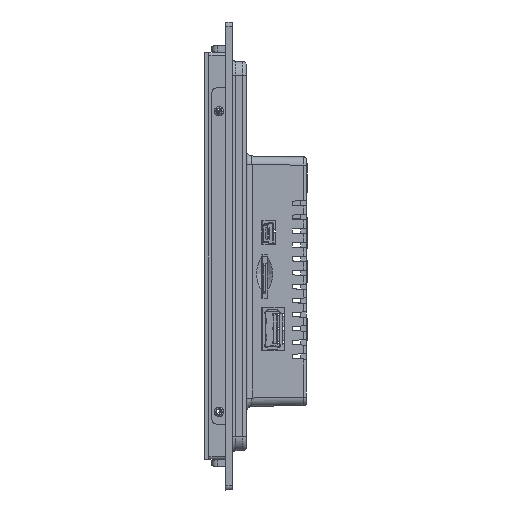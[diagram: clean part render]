
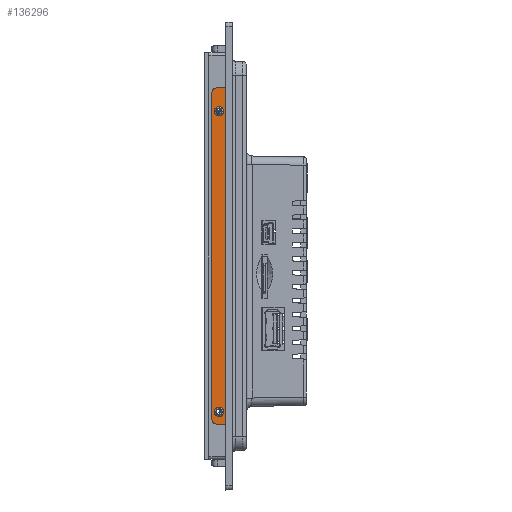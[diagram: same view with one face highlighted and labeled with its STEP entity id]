
A CAD part, left-side view. The second image highlights one B-rep face of the part: STEP entity #136296.
In plain terms, the highlighted planar face has unit normal (-1, 0.018, 0).
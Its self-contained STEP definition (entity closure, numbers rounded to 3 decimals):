
#2118 = EDGE_LOOP ( 'NONE', ( #119730 ) ) ;
#3052 = EDGE_CURVE ( 'NONE', #116427, #116427, #121926, .T. ) ;
#5255 = CARTESIAN_POINT ( 'NONE',  ( -156.58, 23.983, 49.9 ) ) ;
#6088 = VERTEX_POINT ( 'NONE', #155089 ) ;
#7814 =( BOUNDED_CURVE ( )  B_SPLINE_CURVE ( 3, ( #142962, #55112, #67760, #155593, #80410, #5255, #93040 ),
 .UNSPECIFIED., .T., .F. ) 
 B_SPLINE_CURVE_WITH_KNOTS ( ( 4, 3, 4 ),
 ( 0., 3.142, 6.283 ),
 .UNSPECIFIED. ) 
 CURVE ( )  GEOMETRIC_REPRESENTATION_ITEM ( )  RATIONAL_B_SPLINE_CURVE ( ( 1., 0.333, 0.333, 1., 0.333, 0.333, 1. ) ) 
 REPRESENTATION_ITEM ( '' )  );
#8055 = EDGE_CURVE ( 'NONE', #94596, #44844, #24182, .T. ) ;
#10171 = CARTESIAN_POINT ( 'NONE',  ( -156.645, 20.271, 60.505 ) ) ;
#10656 = ORIENTED_EDGE ( 'NONE', *, *, #68153, .F. ) ;
#13679 = EDGE_LOOP ( 'NONE', ( #61261, #54710, #10656, #108959, #89876, #93584 ) ) ;
#15189 = CARTESIAN_POINT ( 'NONE',  ( -156.553, 25.533, 58.447 ) ) ;
#18144 = CARTESIAN_POINT ( 'NONE',  ( -156.64, 20.533, 75.5 ) ) ;
#19941 = VECTOR ( 'NONE', #117671, 1000. ) ;
#22806 = DIRECTION ( 'NONE',  ( -0.017, -1., 0.017 ) ) ;
#24126 = CARTESIAN_POINT ( 'NONE',  ( -156.58, 23.983, -53.9 ) ) ;
#24182 = LINE ( 'NONE', #111219, #45761 ) ;
#27307 =( BOUNDED_CURVE ( )  B_SPLINE_CURVE ( 3, ( #119147, #68583, #131765, #56489 ),
 .UNSPECIFIED., .F., .F. ) 
 B_SPLINE_CURVE_WITH_KNOTS ( ( 4, 4 ),
 ( 0., 1.553 ),
 .UNSPECIFIED. ) 
 CURVE ( )  GEOMETRIC_REPRESENTATION_ITEM ( )  RATIONAL_B_SPLINE_CURVE ( ( 1., 0.809, 0.809, 1. ) ) 
 REPRESENTATION_ITEM ( '' )  );
#28673 = EDGE_CURVE ( 'NONE', #94596, #6088, #86586, .T. ) ;
#29701 = PLANE ( 'NONE',  #156775 ) ;
#30760 = DIRECTION ( 'NONE',  ( -0.017, -1., 0. ) ) ;
#32008 = FACE_BOUND ( 'NONE', #2118, .T. ) ;
#32345 = CARTESIAN_POINT ( 'NONE',  ( -156.553, 25.533, 75.5 ) ) ;
#32485 = LINE ( 'NONE', #32345, #99260 ) ;
#44745 = VECTOR ( 'NONE', #22806, 1000. ) ;
#44844 = VERTEX_POINT ( 'NONE', #102038 ) ;
#45761 = VECTOR ( 'NONE', #61717, 1000. ) ;
#49860 = CARTESIAN_POINT ( 'NONE',  ( -156.617, 21.883, -53.9 ) ) ;
#52471 = CARTESIAN_POINT ( 'NONE',  ( -156.553, 25.533, -58.447 ) ) ;
#54710 = ORIENTED_EDGE ( 'NONE', *, *, #140808, .T. ) ;
#55112 = CARTESIAN_POINT ( 'NONE',  ( -156.58, 23.983, 54.1 ) ) ;
#55461 = EDGE_CURVE ( 'NONE', #118303, #118303, #7814, .T. ) ;
#56489 = CARTESIAN_POINT ( 'NONE',  ( -156.587, 23.567, -60.447 ) ) ;
#60078 = VERTEX_POINT ( 'NONE', #160669 ) ;
#61261 = ORIENTED_EDGE ( 'NONE', *, *, #145722, .F. ) ;
#61717 = DIRECTION ( 'NONE',  ( 0., 0., 1. ) ) ;
#62468 = CARTESIAN_POINT ( 'NONE',  ( -156.617, 21.883, -58.1 ) ) ;
#67760 = CARTESIAN_POINT ( 'NONE',  ( -156.617, 21.883, 54.1 ) ) ;
#68087 = CARTESIAN_POINT ( 'NONE',  ( -156.58, 23.983, -56. ) ) ;
#68153 = EDGE_CURVE ( 'NONE', #130982, #60078, #32485, .T. ) ;
#68583 = CARTESIAN_POINT ( 'NONE',  ( -156.553, 25.533, -59.603 ) ) ;
#69700 = CARTESIAN_POINT ( 'NONE',  ( -156.58, 23.983, 52. ) ) ;
#75103 = CARTESIAN_POINT ( 'NONE',  ( -156.58, 23.983, -56. ) ) ;
#77694 = CARTESIAN_POINT ( 'NONE',  ( -156.567, 24.723, 60.427 ) ) ;
#78705 = CARTESIAN_POINT ( 'NONE',  ( -156.599, 22.905, -60.459 ) ) ;
#80410 = CARTESIAN_POINT ( 'NONE',  ( -156.617, 21.883, 49.9 ) ) ;
#81512 = VERTEX_POINT ( 'NONE', #160116 ) ;
#83376 = EDGE_CURVE ( 'NONE', #130982, #6088, #27307, .T. ) ;
#86586 = LINE ( 'NONE', #78705, #19941 ) ;
#89876 = ORIENTED_EDGE ( 'NONE', *, *, #28673, .F. ) ;
#90324 = CARTESIAN_POINT ( 'NONE',  ( -156.553, 25.533, 59.603 ) ) ;
#93040 = CARTESIAN_POINT ( 'NONE',  ( -156.58, 23.983, 52. ) ) ;
#93584 = ORIENTED_EDGE ( 'NONE', *, *, #8055, .T. ) ;
#94596 = VERTEX_POINT ( 'NONE', #111529 ) ;
#94804 = FACE_BOUND ( 'NONE', #125159, .T. ) ;
#99260 = VECTOR ( 'NONE', #133784, 1000. ) ;
#102038 = CARTESIAN_POINT ( 'NONE',  ( -156.64, 20.533, 60.5 ) ) ;
#105949 = DIRECTION ( 'NONE',  ( -1., 0.017, 0. ) ) ;
#107598 = LINE ( 'NONE', #10171, #44745 ) ;
#108959 = ORIENTED_EDGE ( 'NONE', *, *, #83376, .T. ) ;
#111219 = CARTESIAN_POINT ( 'NONE',  ( -156.64, 20.533, 75.5 ) ) ;
#111529 = CARTESIAN_POINT ( 'NONE',  ( -156.64, 20.533, -60.5 ) ) ;
#115758 = ORIENTED_EDGE ( 'NONE', *, *, #55461, .T. ) ;
#116427 = VERTEX_POINT ( 'NONE', #68087 ) ;
#117671 = DIRECTION ( 'NONE',  ( 0.017, 1., 0.017 ) ) ;
#118303 = VERTEX_POINT ( 'NONE', #69700 ) ;
#119147 = CARTESIAN_POINT ( 'NONE',  ( -156.553, 25.533, -58.447 ) ) ;
#119730 = ORIENTED_EDGE ( 'NONE', *, *, #3052, .T. ) ;
#121926 =( BOUNDED_CURVE ( )  B_SPLINE_CURVE ( 3, ( #125103, #24126, #49860, #137679, #62468, #150272, #75103 ),
 .UNSPECIFIED., .T., .T. ) 
 B_SPLINE_CURVE_WITH_KNOTS ( ( 4, 3, 4 ),
 ( 0., 3.142, 6.283 ),
 .UNSPECIFIED. ) 
 CURVE ( )  GEOMETRIC_REPRESENTATION_ITEM ( )  RATIONAL_B_SPLINE_CURVE ( ( 1., 0.333, 0.333, 1., 0.333, 0.333, 1. ) ) 
 REPRESENTATION_ITEM ( '' )  );
#125103 = CARTESIAN_POINT ( 'NONE',  ( -156.58, 23.983, -56. ) ) ;
#125159 = EDGE_LOOP ( 'NONE', ( #115758 ) ) ;
#130982 = VERTEX_POINT ( 'NONE', #52471 ) ;
#131765 = CARTESIAN_POINT ( 'NONE',  ( -156.567, 24.723, -60.427 ) ) ;
#133784 = DIRECTION ( 'NONE',  ( 0., 0., 1. ) ) ;
#136296 = ADVANCED_FACE ( 'NONE', ( #94804, #32008, #161543 ), #29701, .T. ) ;
#137679 = CARTESIAN_POINT ( 'NONE',  ( -156.617, 21.883, -56. ) ) ;
#140808 = EDGE_CURVE ( 'NONE', #81512, #60078, #161394, .T. ) ;
#142962 = CARTESIAN_POINT ( 'NONE',  ( -156.58, 23.983, 52. ) ) ;
#145722 = EDGE_CURVE ( 'NONE', #81512, #44844, #107598, .T. ) ;
#150272 = CARTESIAN_POINT ( 'NONE',  ( -156.58, 23.983, -58.1 ) ) ;
#152845 = CARTESIAN_POINT ( 'NONE',  ( -156.587, 23.567, 60.447 ) ) ;
#155089 = CARTESIAN_POINT ( 'NONE',  ( -156.587, 23.567, -60.447 ) ) ;
#155593 = CARTESIAN_POINT ( 'NONE',  ( -156.617, 21.883, 52. ) ) ;
#156775 = AXIS2_PLACEMENT_3D ( 'NONE', #18144, #105949, #30760 ) ;
#160116 = CARTESIAN_POINT ( 'NONE',  ( -156.587, 23.567, 60.447 ) ) ;
#160669 = CARTESIAN_POINT ( 'NONE',  ( -156.553, 25.533, 58.447 ) ) ;
#161394 =( BOUNDED_CURVE ( )  B_SPLINE_CURVE ( 3, ( #152845, #77694, #90324, #15189 ),
 .UNSPECIFIED., .F., .F. ) 
 B_SPLINE_CURVE_WITH_KNOTS ( ( 4, 4 ),
 ( 1.588, 3.142 ),
 .UNSPECIFIED. ) 
 CURVE ( )  GEOMETRIC_REPRESENTATION_ITEM ( )  RATIONAL_B_SPLINE_CURVE ( ( 1., 0.809, 0.809, 1. ) ) 
 REPRESENTATION_ITEM ( '' )  );
#161543 = FACE_OUTER_BOUND ( 'NONE', #13679, .T. ) ;
